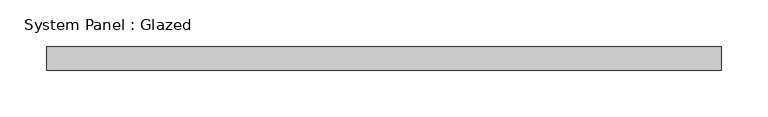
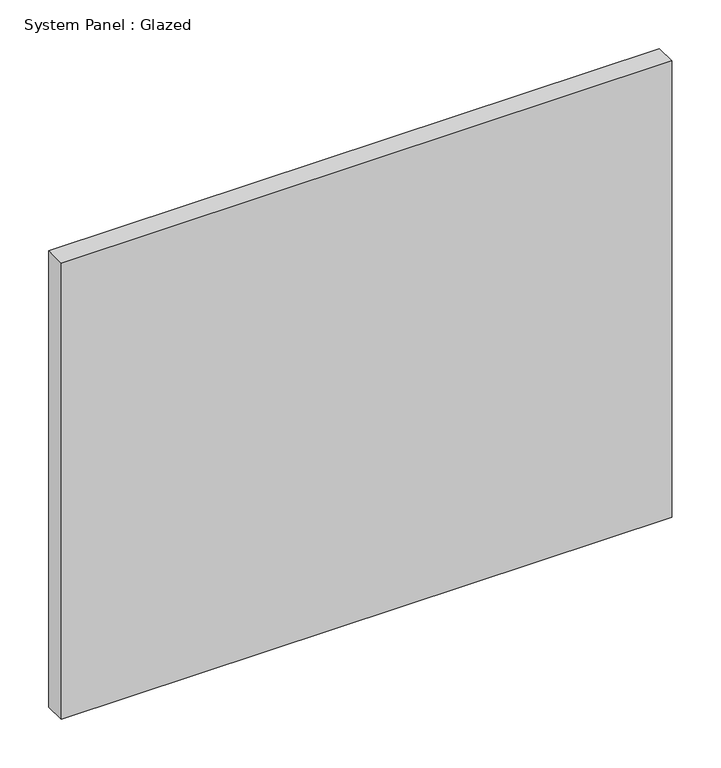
"""IFC4 building model written with IfcOpenShell, lengths in millimetres: plate geometry, System Panel : Glazed."""

from ifc_helpers import new_model, si_unit, origin, origin_with_axes, place, context, project, spatial, polyline, outline, extrude, source, transform, mapped, element, save


def system_panel_glazed_611e237e(model_context):
    return source(origin(), model_context, "Body", "SweptSolid", [
        extrude(outline(polyline([(361.9500001, 19.05), (-361.9500001, 19.05), (-361.9500001, 44.45), (361.9500001, 44.45), (361.9500001, 19.05)])), origin_with_axes(), (0.0, 0.0, 1.0), 571.5),
    ])


if __name__ == "__main__":
    model = new_model("IFC4")
    model_context = context("Model", 3, world=origin())
    ifc_project = project(units=[si_unit("LENGTHUNIT", "METRE", prefix="MILLI")], contexts=[model_context])
    site = spatial("IfcSite", under=ifc_project)
    building = spatial("IfcBuilding", under=site)
    placement = place(None, origin())
    system_panel_glazed_shape = system_panel_glazed_611e237e(model_context)
    element("IfcPlate", 1, ObjectType="System Panel : Glazed", at=placement, inside=building, context=model_context, shape_type="MappedRepresentation", body=[
        mapped(system_panel_glazed_shape, transform((0.0, 0.0, 0.0), x_axis=(1.0, 0.0, 0.0), y_axis=(0.0, 1.0, 0.0), z_axis=(0.0, 0.0, 1.0))),
    ])
    save(model, "model.ifc")
